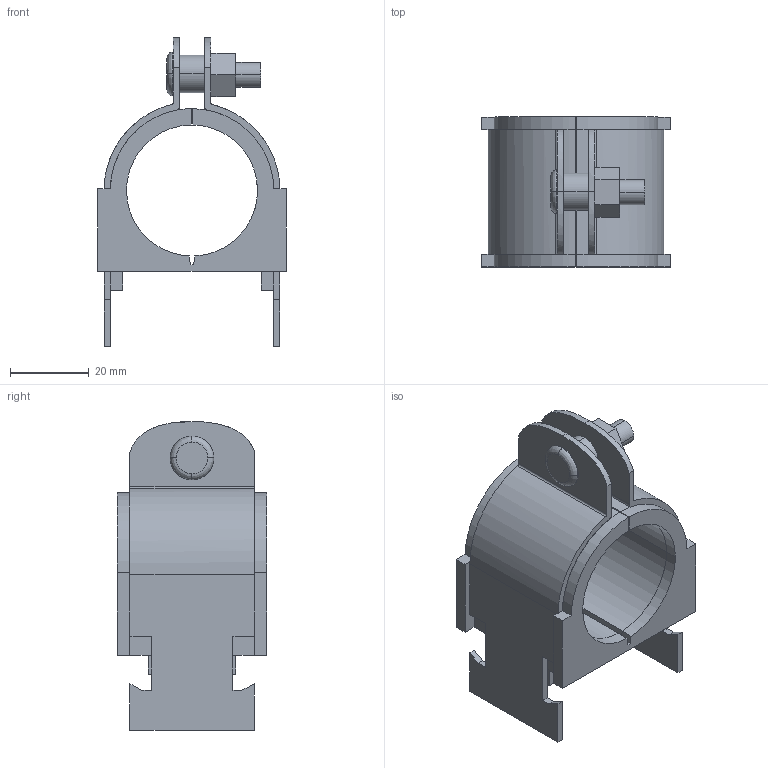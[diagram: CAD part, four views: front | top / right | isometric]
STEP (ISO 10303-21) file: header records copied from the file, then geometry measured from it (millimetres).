
FILE_DESCRIPTION(('TurboCAD Mac Pro'),'Build 980');
FILE_NAME('021N026.stp',' ',(''),(''),'ACIS Interop','IMSI','TurboCAD Mac Pro BY IMSI, INCORPORATED');
FILE_SCHEMA(('automotive_design'));
Length unit declared in the file: inch
Products named in the file (3): 1; 2; 3
Bounding box: 47.87 x 38.1 x 78.49 mm (x, y, z)
Volume: 36296.1 mm3; surface area: 24100.7 mm2
Topology: 3 solids, 3 shells, 142 faces, 380 edges, 248 vertices
Faces by surface type: plane 96, bspline 46
Entity records: 6886 total; most frequent: CARTESIAN_POINT 1703, ORIENTED_EDGE 760, DIRECTION 486, EDGE_CURVE 380, STYLED_ITEM 297, PRESENTATION_STYLE_ASSIGNMENT 297, COLOUR_RGB 297, LINE 280
